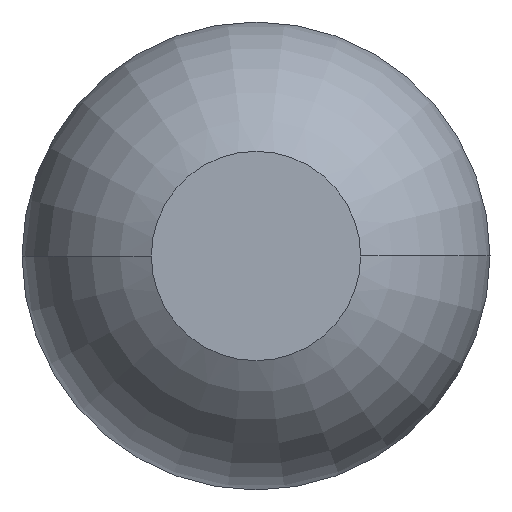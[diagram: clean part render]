
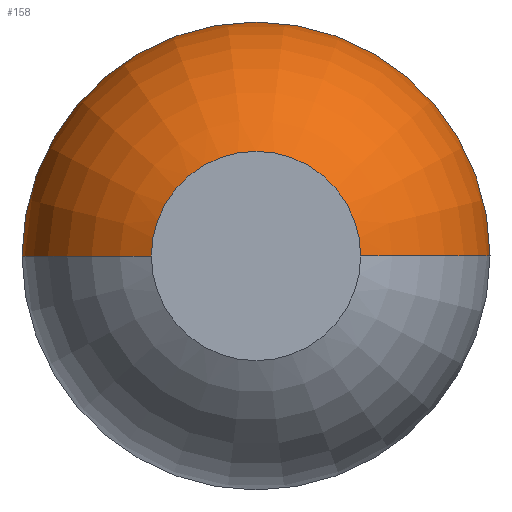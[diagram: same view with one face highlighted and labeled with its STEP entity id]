
A CAD part, left-side view. The second image highlights one B-rep face of the part: STEP entity #158.
In plain terms, the highlighted toroidal (fillet/blend) face has major radius 0.003 mm and minor radius 0.508 mm.
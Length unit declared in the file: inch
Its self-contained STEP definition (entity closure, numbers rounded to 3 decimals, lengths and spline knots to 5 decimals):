
#61 = VERTEX_POINT ( 'NONE', #93 ) ;
#63 = CARTESIAN_POINT ( 'NONE',  ( 0., 0., 0. ) ) ;
#75 = VERTEX_POINT ( 'NONE', #860 ) ;
#85 = CIRCLE ( 'NONE', #312, 0.009 ) ;
#93 = CARTESIAN_POINT ( 'NONE',  ( 0.01792, 0.02013, 0. ) ) ;
#122 = CARTESIAN_POINT ( 'NONE',  ( 0., -0.009, 0. ) ) ;
#144 = AXIS2_PLACEMENT_3D ( 'NONE', #345, #662, #873 ) ;
#158 = ADVANCED_FACE ( 'NONE', ( #959 ), #966, .T. ) ;
#187 = CIRCLE ( 'NONE', #603, 0.02 ) ;
#193 = CARTESIAN_POINT ( 'NONE',  ( 0.01792, 0.00013, 0. ) ) ;
#211 = ORIENTED_EDGE ( 'NONE', *, *, #246, .F. ) ;
#246 = EDGE_CURVE ( 'NONE', #75, #61, #516, .T. ) ;
#269 = ORIENTED_EDGE ( 'NONE', *, *, #396, .T. ) ;
#286 = DIRECTION ( 'NONE',  ( 0., 1., 0. ) ) ;
#289 = EDGE_LOOP ( 'NONE', ( #453, #269, #902, #211 ) ) ;
#292 = DIRECTION ( 'NONE',  ( 0., 1., 0. ) ) ;
#312 = AXIS2_PLACEMENT_3D ( 'NONE', #63, #983, #286 ) ;
#345 = CARTESIAN_POINT ( 'NONE',  ( 0.01792, 0., 0. ) ) ;
#366 = EDGE_CURVE ( 'NONE', #61, #875, #607, .T. ) ;
#396 = EDGE_CURVE ( 'NONE', #939, #875, #187, .T. ) ;
#403 = EDGE_CURVE ( 'NONE', #75, #939, #85, .T. ) ;
#449 = CARTESIAN_POINT ( 'NONE',  ( 0.01792, -0.00013, 0. ) ) ;
#453 = ORIENTED_EDGE ( 'NONE', *, *, #403, .T. ) ;
#479 = AXIS2_PLACEMENT_3D ( 'NONE', #591, #518, #292 ) ;
#502 = DIRECTION ( 'NONE',  ( 0., 0., -1. ) ) ;
#516 = CIRCLE ( 'NONE', #883, 0.02 ) ;
#518 = DIRECTION ( 'NONE',  ( 1., 0., 0. ) ) ;
#530 = DIRECTION ( 'NONE',  ( 0., 0., 1. ) ) ;
#591 = CARTESIAN_POINT ( 'NONE',  ( 0.01792, 0., 0. ) ) ;
#603 = AXIS2_PLACEMENT_3D ( 'NONE', #449, #530, #675 ) ;
#607 = CIRCLE ( 'NONE', #479, 0.02013 ) ;
#640 = CARTESIAN_POINT ( 'NONE',  ( 0.01792, -0.02013, 0. ) ) ;
#662 = DIRECTION ( 'NONE',  ( 1., 0., 0. ) ) ;
#675 = DIRECTION ( 'NONE',  ( 0., -1., 0. ) ) ;
#812 = DIRECTION ( 'NONE',  ( -1., 0., 0. ) ) ;
#860 = CARTESIAN_POINT ( 'NONE',  ( 0., 0.009, 0. ) ) ;
#873 = DIRECTION ( 'NONE',  ( 0., 1., 0. ) ) ;
#875 = VERTEX_POINT ( 'NONE', #640 ) ;
#883 = AXIS2_PLACEMENT_3D ( 'NONE', #193, #502, #812 ) ;
#902 = ORIENTED_EDGE ( 'NONE', *, *, #366, .F. ) ;
#939 = VERTEX_POINT ( 'NONE', #122 ) ;
#959 = FACE_OUTER_BOUND ( 'NONE', #289, .T. ) ;
#966 = TOROIDAL_SURFACE ( 'NONE', #144, 0.00013, 0.02 ) ;
#983 = DIRECTION ( 'NONE',  ( 1., 0., 0. ) ) ;
